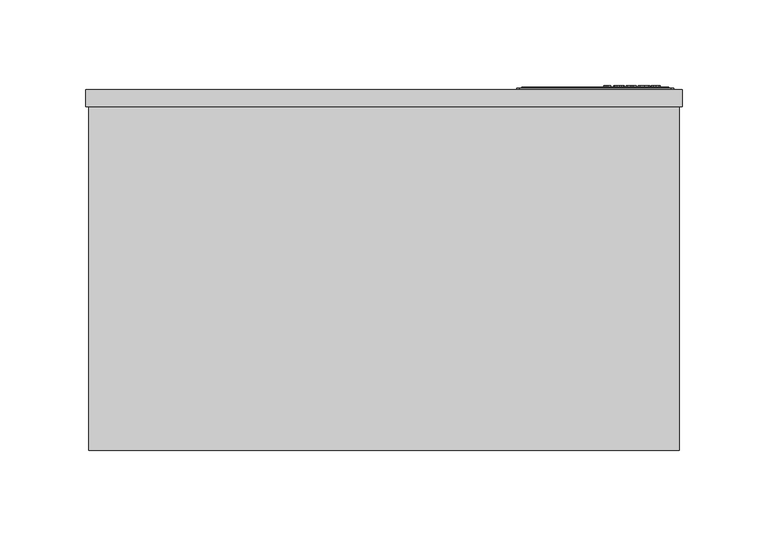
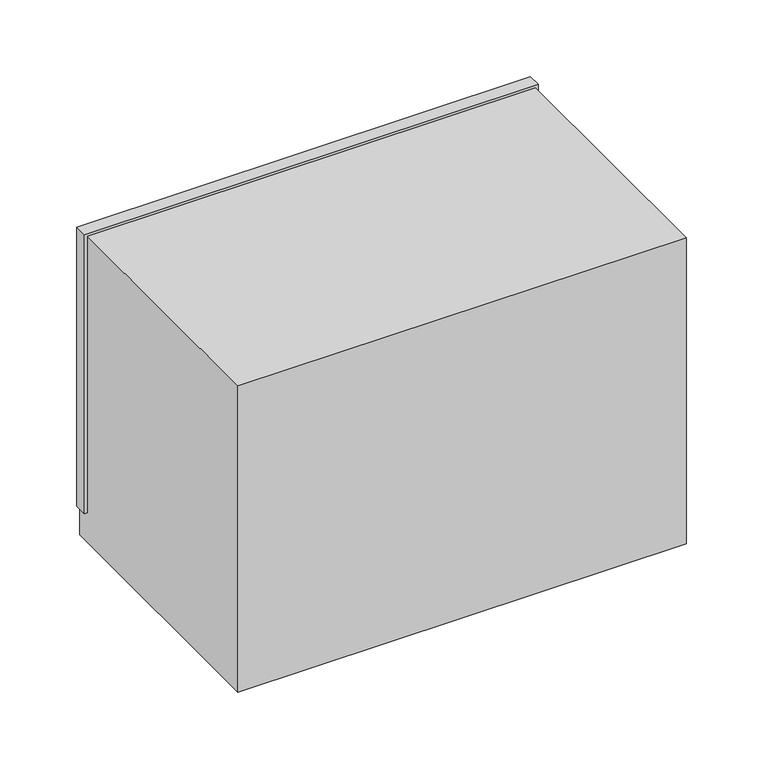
"""IFC4 building model written with IfcOpenShell, lengths in millimetres: proxy geometry, RBZ_Бокс_резервного_питания_Sonar_SPM-Box : Sonar SPM-Box c АКБ 2x40."""

from ifc_helpers import new_model, si_unit, point, frame, frame_2d, origin, place, context, project, spatial, polyline, circle_curve, trimmed, segment, composite_curve, outline, extrude, faceted_brep, source, transform, mapped, element, save


def electrical_equipment_baaab196(model_context):
    return source(origin(), model_context, "Body", "SolidModel", [
        faceted_brep([(174.5, 201.0, 251.0), (174.5, 201.0, 26.0), (174.5, 211.0, 26.0), (174.5, 211.0, 251.0), (-174.5, 211.0, 251.0), (-174.5, 201.0, 251.0), (172.5, 211.0, 26.0), (172.5, 211.0, 0.0), (-172.5, 211.0, 0.0), (-172.5, 211.0, 24.0), (-174.5, 211.0, 24.0), (172.5, 201.0, 26.0), (-174.5, 201.0, 24.0), (-172.5, 201.0, 24.0), (-172.5, 201.0, 249.0), (172.5, 201.0, 249.0), (-172.5, 0.0, 249.0), (172.5, 0.0, 249.0), (172.5, 0.0, 0.0), (-172.5, 0.0, 0.0)], [[[0, 1, 2, 3]], [[0, 3, 4, 5]], [[3, 2, 6, 7, 8, 9, 10, 4]], [[2, 1, 11, 6]], [[1, 0, 5, 12, 13, 14, 15, 11]], [[16, 17, 15, 14]], [[18, 19, 8, 7]], [[17, 16, 19, 18]], [[8, 19, 16, 14, 13, 9]], [[18, 7, 6, 11, 15, 17]], [[12, 5, 4, 10]], [[12, 10, 9, 13]]]),
        extrude(outline(composite_curve([segment(polyline([(246.0, 167.5364443), (246.0, 79.4947267)]), True, "CONTINUOUS"), segment(trimmed(circle_curve(frame_2d((244.0052733, 79.4947267)), 1.9947267), [point((246.0, 79.4947267))], [point((244.0052733, 77.5))], False, "CARTESIAN"), True, "CONTINUOUS"), segment(polyline([(244.0052733, 77.5), (202.0457796, 77.5)]), True, "CONTINUOUS"), segment(trimmed(circle_curve(frame_2d((202.0457796, 79.5457796)), 2.0457796), [point((202.0457796, 77.5))], [point((200.0, 79.5457796))], False, "CARTESIAN"), True, "CONTINUOUS"), segment(polyline([(200.0, 79.5457796), (200.0, 167.5257648)]), True, "CONTINUOUS"), segment(trimmed(circle_curve(frame_2d((201.9742352, 167.5257648)), 1.9742352), [point((200.0, 167.5257648))], [point((201.9742352, 169.5))], False, "CARTESIAN"), True, "CONTINUOUS"), segment(polyline([(201.9742352, 169.5), (244.0364443, 169.5)]), True, "CONTINUOUS"), segment(trimmed(circle_curve(frame_2d((244.0364443, 167.5364443)), 1.9635557), [point((244.0364443, 169.5))], [point((246.0, 167.5364443))], False, "CARTESIAN"), True, "CONTINUOUS")], self_intersect=False)), frame((0.0, 211.0, 0.0), z_axis=(0.0, 1.0, 0.0), x_axis=(0.0, 0.0, 1.0)), (0.0, 0.0, 1.0), 1.0),
        extrude(outline(polyline([(233.7657674, 159.017402), (233.9612623, 160.3923401), (234.3794403, 161.4513791), (235.7543785, 161.4513791), (234.7600729, 159.009634), (237.0516365, 158.4917665), (238.1042021, 161.0642732), (239.3276641, 161.4513791), (240.9343479, 160.7082393), (241.5544942, 158.7299855), (241.4056073, 157.5104076), (241.0314481, 156.4798513), (239.7316007, 156.4798513), (240.3375056, 157.571257), (240.5601887, 158.7118602), (240.2934869, 159.7165231), (239.4856136, 160.1256384), (238.3825559, 159.1261541), (237.3908397, 156.5614155), (236.088403, 156.1484161), (235.1795456, 156.3348484), (234.4441737, 156.883788), (233.939253, 157.7732254), (233.7657674, 159.017402)])), frame((0.0, 212.5, 0.0), z_axis=(0.0, 1.0, 0.0), x_axis=(0.0, 0.0, 1.0)), (0.0, 0.0, 1.0), 1.0),
        extrude(outline(polyline([(237.6575414, 148.6911245), (234.7794929, 149.6168126), (233.7657674, 152.0805671), (234.8131543, 154.5766884), (237.6575414, 155.4855458), (240.5304113, 154.5495003), (241.5544942, 152.0805671), (240.5342953, 149.6168126), (237.6575414, 148.6911245)]), holes=[polyline([(237.6575414, 150.0168652), (239.7199487, 150.5528581), (240.3944711, 152.0805671), (239.7199487, 153.6199282), (237.6575414, 154.159805), (235.6197329, 153.6199282), (234.9257905, 152.0805671), (235.6067862, 150.5567421), (237.6575414, 150.0168652)])]), frame((0.0, 212.5, 0.0), z_axis=(0.0, 1.0, 0.0), x_axis=(0.0, 0.0, 1.0)), (0.0, 0.0, 1.0), 1.0),
        extrude(outline(polyline([(233.9314849, 141.565268), (233.9314849, 142.8910087), (238.1728196, 142.8910087), (239.1308744, 142.9376168), (240.1446, 145.1269016), (239.4933816, 146.039643), (233.9314849, 146.039643), (233.9314849, 147.3653837), (241.3887766, 147.3653837), (241.3887766, 146.039643), (240.5265273, 146.039643), (241.2890871, 144.9637733), (241.5544942, 143.8412956), (240.8346584, 142.1685836), (238.7450631, 141.565268), (233.9314849, 141.565268)])), frame((0.0, 212.5, 0.0), z_axis=(0.0, 1.0, 0.0), x_axis=(0.0, 0.0, 1.0)), (0.0, 0.0, 1.0), 1.0),
        extrude(outline(polyline([(234.7730196, 135.5994347), (233.7657674, 138.0851985), (233.9405476, 138.9811093), (234.4286377, 139.7268384), (235.1911976, 140.2201072), (236.1453684, 140.4052448), (237.4711092, 140.0699256), (238.3385372, 139.009592), (238.7385898, 137.4883563), (238.9030127, 135.5994347), (240.2662989, 138.4748938), (239.8973183, 139.6672837), (241.2049337, 139.7423745), (241.4315007, 138.7208809), (241.5544942, 137.4067921), (241.43409, 136.0758727), (241.000376, 135.1022819), (240.2080388, 134.4795462), (239.0221222, 134.2736939), (233.9314849, 134.2736939), (233.9314849, 135.5994347), (234.7730196, 135.5994347)]), holes=[polyline([(235.8191119, 135.5994347), (237.9087072, 135.5994347), (237.7973657, 136.7607525), (237.5979867, 137.8935876), (237.1254326, 138.7441849), (236.2308165, 139.0795041), (235.255931, 138.7092289), (234.9257905, 137.6268858), (235.1847242, 136.5251228), (235.8191119, 135.5994347)])]), frame((0.0, 212.5, 0.0), z_axis=(0.0, 1.0, 0.0), x_axis=(0.0, 0.0, 1.0)), (0.0, 0.0, 1.0), 1.0),
        extrude(outline(polyline([(240.0630359, 128.4735782), (239.8442369, 130.1928982), (239.1930185, 131.1250596), (233.9314849, 131.1250596), (233.9314849, 132.4508004), (241.3887766, 132.4508004), (241.3887766, 131.1250596), (240.2805402, 131.1250596), (241.1389056, 129.9469111), (241.3887766, 128.9733203), (240.0630359, 128.4735782)])), frame((0.0, 212.5, 0.0), z_axis=(0.0, 1.0, 0.0), x_axis=(0.0, 0.0, 1.0)), (0.0, 0.0, 1.0), 1.0),
        extrude(outline(composite_curve([segment(trimmed(circle_curve(frame_2d((241.0052733, 82.4947267)), 1.9947267), [point((243.0, 82.4947267))], [point((241.0052733, 80.5))], False, "CARTESIAN"), True, "CONTINUOUS"), segment(polyline([(241.0052733, 80.5), (234.0457796, 80.5)]), True, "CONTINUOUS"), segment(trimmed(circle_curve(frame_2d((234.0457796, 82.5457796)), 2.0457796), [point((234.0457796, 80.5))], [point((232.0, 82.5457796))], False, "CARTESIAN"), True, "CONTINUOUS"), segment(polyline([(232.0, 82.5457796), (232.0, 164.5257648)]), True, "CONTINUOUS"), segment(trimmed(circle_curve(frame_2d((233.9742352, 164.5257648)), 1.9742352), [point((232.0, 164.5257648))], [point((233.9742352, 166.5))], False, "CARTESIAN"), True, "CONTINUOUS"), segment(polyline([(233.9742352, 166.5), (241.0364443, 166.5)]), True, "CONTINUOUS"), segment(trimmed(circle_curve(frame_2d((241.0364443, 164.5364443)), 1.9635557), [point((241.0364443, 166.5))], [point((243.0, 164.5364443))], False, "CARTESIAN"), True, "CONTINUOUS"), segment(polyline([(243.0, 164.5364443), (243.0, 82.4947267)]), True, "CONTINUOUS")], self_intersect=False)), frame((0.0, 211.0, 0.0), z_axis=(0.0, 1.0, 0.0), x_axis=(0.0, 0.0, 1.0)), (0.0, 0.0, 1.0), 1.5),
    ])


if __name__ == "__main__":
    model = new_model("IFC4")
    model_context = context("Model", 3, world=origin())
    ifc_project = project(units=[si_unit("LENGTHUNIT", "METRE", prefix="MILLI")], contexts=[model_context])
    site = spatial("IfcSite", under=ifc_project)
    building = spatial("IfcBuilding", under=site)
    placement = place(None, origin())
    electrical_equipment_shape = electrical_equipment_baaab196(model_context)
    element("IfcBuildingElementProxy", 1, Name="RBZ_Бокс_резервного_питания_Sonar_SPM-Box : Sonar SPM-Box c АКБ 2x40", ObjectType="RBZ_Бокс_резервного_питания_Sonar_SPM-Box : Sonar SPM-Box c АКБ 2x40", at=placement, inside=building, context=model_context, shape_type="MappedRepresentation", body=[
        mapped(electrical_equipment_shape, transform((0.0, 0.0, 0.0), x_axis=(1.0, 0.0, 0.0), y_axis=(0.0, 1.0, 0.0), z_axis=(0.0, 0.0, 1.0))),
    ])
    save(model, "model.ifc")
